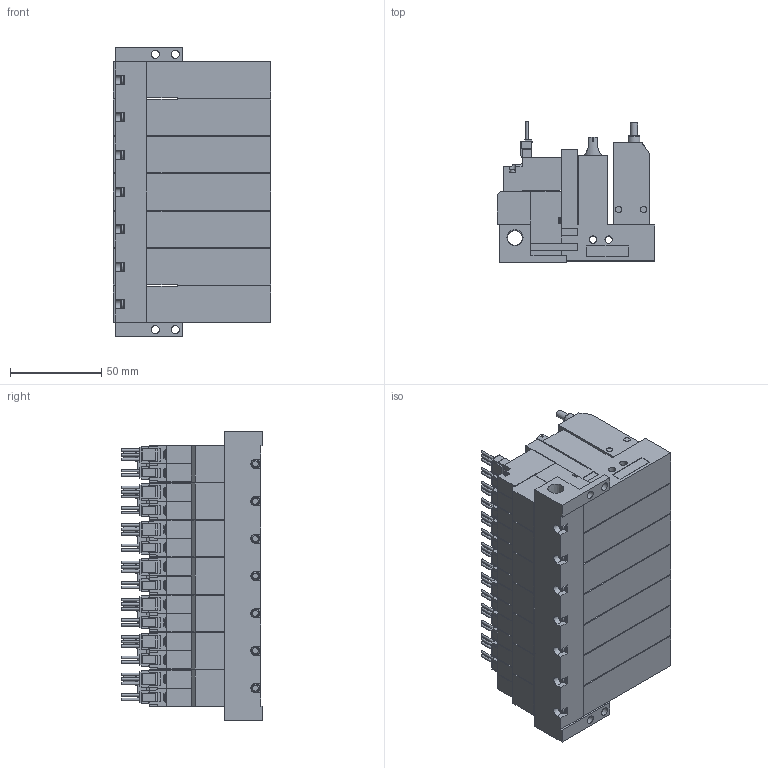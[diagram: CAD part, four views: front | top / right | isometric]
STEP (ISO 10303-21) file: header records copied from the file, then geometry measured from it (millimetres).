
FILE_DESCRIPTION(('STEP AP203'),'1');
FILE_NAME('ABS_ABPL5WLR707.stp','2025-02-25T02:24:48',(' '),(' '),'Spatial InterOp 3D',' ',' ');
FILE_SCHEMA(('CONFIG_CONTROL_DESIGN'));
Length unit declared in the file: millimetre
Products named in the file (5): BMC22M※※※※ABS_ABPL5WLR707; Solenoid valve W; Pressure sensor ABSL; Unit L; Base MR70R
Assembly tree (22 placements, depth 2):
  BMC22M※※※※ABS_ABPL5WLR707
    Solenoid valve W  x7
    Pressure sensor ABSL  x7
    Unit L  x7
    Base MR70R
Bounding box: 86.6 x 77.45 x 159 mm (x, y, z)
Volume: 629851 mm3; surface area: 174554.5 mm2
Topology: 22 solids, 22 shells, 2513 faces, 6730 edges, 4443 vertices
Faces by surface type: plane 2128, cylinder 306, cone 51, torus 28
Full cylindrical faces by diameter (mm): 1.4 x35, 2.5 x7, 3 x28, 3.5 x42, 3.6 x7, 4 x21, 4.134 x7, 4.5 x4, 5.2 x7, 6 x7, 6.5 x7, 6.6 x7, 8.279 x1
Entity records: 14603 total; most frequent: CARTESIAN_POINT 2814, DIRECTION 2338, ORIENTED_EDGE 2234, EDGE_CURVE 1117, LINE 878, VECTOR 878, VERTEX_POINT 791, AXIS2_PLACEMENT_3D 730
